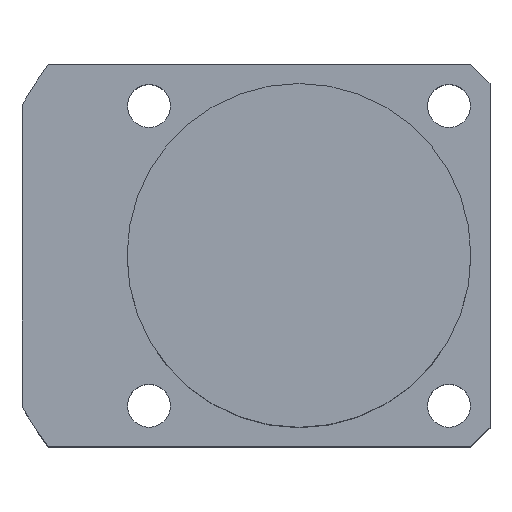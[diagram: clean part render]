
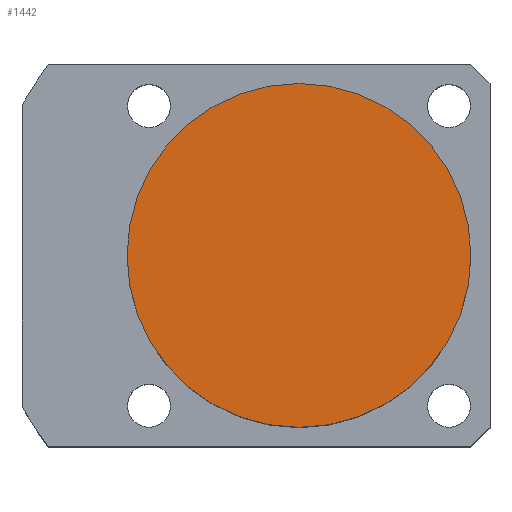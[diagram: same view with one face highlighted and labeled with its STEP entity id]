
A CAD part, top view. The second image highlights one B-rep face of the part: STEP entity #1442.
In plain terms, the highlighted planar face has unit normal (0, 0, 1).
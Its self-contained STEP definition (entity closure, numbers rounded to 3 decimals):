
#1384=CARTESIAN_POINT('',(-0.0,18.0,33.5));
#1385=VERTEX_POINT('',#1384);
#1392=CARTESIAN_POINT('',(18.0,0.0,33.5));
#1393=VERTEX_POINT('',#1392);
#1394=CARTESIAN_POINT('',(0.0,0.0,33.5));
#1395=DIRECTION('',(0.0,0.0,1.0));
#1396=DIRECTION('',(1.0,0.0,0.0));
#1397=AXIS2_PLACEMENT_3D('',#1394,#1395,#1396);
#1398=CIRCLE('',#1397,18.0);
#1399=EDGE_CURVE('no 1917',#1393,#1385,#1398,.T.);
#1401=CARTESIAN_POINT('',(-0.0,-18.0,33.5));
#1402=VERTEX_POINT('',#1401);
#1403=CARTESIAN_POINT('',(0.0,0.0,33.5));
#1404=DIRECTION('',(0.0,0.0,1.0));
#1405=DIRECTION('',(1.0,0.0,0.0));
#1406=AXIS2_PLACEMENT_3D('',#1403,#1404,#1405);
#1407=CIRCLE('',#1406,18.0);
#1408=EDGE_CURVE('no 1923',#1402,#1393,#1407,.T.);
#1426=ORIENTED_EDGE('',*,*,#1399,.T.);
#1427=CARTESIAN_POINT('',(0.0,0.0,33.5));
#1428=DIRECTION('',(0.0,0.0,1.0));
#1429=DIRECTION('',(1.0,0.0,0.0));
#1430=AXIS2_PLACEMENT_3D('',#1427,#1428,#1429);
#1431=CIRCLE('',#1430,18.0);
#1432=EDGE_CURVE('no 1940',#1385,#1402,#1431,.T.);
#1433=ORIENTED_EDGE('',*,*,#1432,.T.);
#1434=ORIENTED_EDGE('',*,*,#1408,.T.);
#1435=EDGE_LOOP('',(#1426,#1433,#1434));
#1436=FACE_OUTER_BOUND('',#1435,.T.);
#1437=CARTESIAN_POINT('',(0.0,0.0,33.5));
#1438=DIRECTION('',(0.0,0.0,1.0));
#1439=DIRECTION('',(1.0,0.0,0.0));
#1440=AXIS2_PLACEMENT_3D('',#1437,#1438,#1439);
#1441=PLANE('',#1440);
#1442=ADVANCED_FACE('no 1933',(#1436),#1441,.T.);
